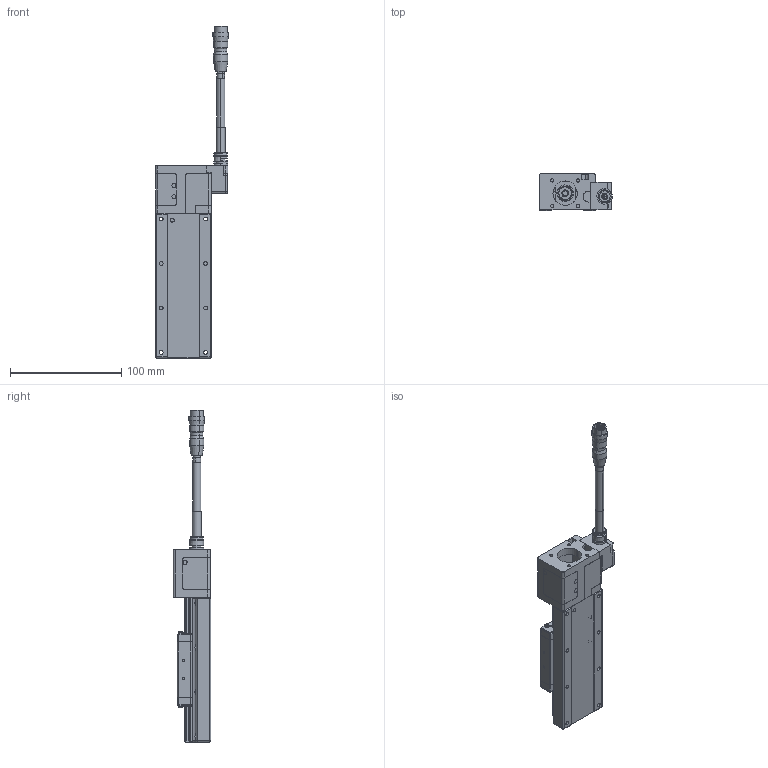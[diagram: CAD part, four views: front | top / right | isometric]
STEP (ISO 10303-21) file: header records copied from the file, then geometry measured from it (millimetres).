
FILE_DESCRIPTION (( 'STEP AP203' ), '1' );
FILE_NAME ('CXN5050-S2?N(42框無馬達).', '2024-01-05T02:16:02', ( '' ), ( '' ), 'SwSTEP 2.0', 'SolidWorks 2019', '' );
FILE_SCHEMA (( 'CONFIG_CONTROL_DESIGN' ));
Length unit declared in the file: millimetre
Products named in the file (4): Group2^CXN5050-S2?N(42框無馬達)_defeature_GMT; HR10A-10J-12P_帶線示意; CXN5050-S2?N(42框無馬達); Group3^CXN5050-S2?N(42框無馬達)_defeature_GMT
Assembly tree (3 placements, depth 2):
  CXN5050-S2?N(42框無馬達)
    Group2^CXN5050-S2?N(42框無馬達)_defeature_GMT
    Group3^CXN5050-S2?N(42框無馬達)_defeature_GMT
    HR10A-10J-12P_帶線示意
Bounding box: 65.49 x 33.5 x 298.5 mm (x, y, z)
Volume: 35087.4 mm3; surface area: 84276.1 mm2
Topology: 4 solids, 32 shells, 3359 faces, 8790 edges, 5314 vertices
Faces by surface type: cylinder 1092, plane 1040, cone 567, torus 286, sphere 192, bspline 182
Entity records: 108399 total; most frequent: CARTESIAN_POINT 26355, DIRECTION 17987, ORIENTED_EDGE 16982, EDGE_CURVE 8491, AXIS2_PLACEMENT_3D 7057, VERTEX_POINT 5217, VECTOR 3873, CIRCLE 3873
